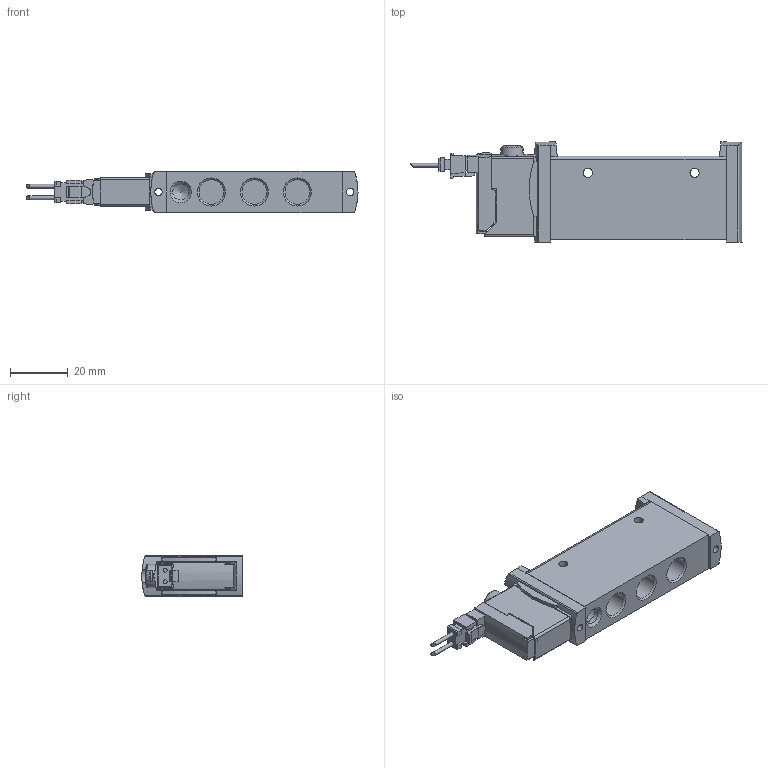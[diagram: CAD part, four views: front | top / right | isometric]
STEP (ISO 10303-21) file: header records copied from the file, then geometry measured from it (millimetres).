
FILE_DESCRIPTION( ( 'STEP AP214' ), '1' );
FILE_NAME( 'C:/Users/thinkpad/Desktop/576256_VUVG-L14-M52-AT-G18-1H2L-W1.stp', '2024-10-24T01:15:03', ( 'License CC BY-ND 4.0' ), ( 'CADENAS' ), ' ', 'PARTsolutions', ' ' );
FILE_SCHEMA( ( 'AUTOMOTIVE_DESIGN { 1 0 10303 214 1 1 1 1 }' ) );
Length unit declared in the file: millimetre
Products named in the file (4): 576256 VUVG-L14-M52-AT-G18-1H2L-W1; HI_564212 VUVG-L-14-M52-A-T-G18--1H2--L-W1---(G); _566714 VAVE-L1-1VH2-LP; _566654 NEBV-H1G2-KN-0.5-N-LE2
Assembly tree (3 placements, depth 2):
  576256 VUVG-L14-M52-AT-G18-1H2L-W1
    HI_564212 VUVG-L-14-M52-A-T-G18--1H2--L-W1---(G)
    _566714 VAVE-L1-1VH2-LP
    _566654 NEBV-H1G2-KN-0.5-N-LE2
Bounding box: 115.14 x 34.8 x 14.4 mm (x, y, z)
Volume: 33719.7 mm3; surface area: 12659.4 mm2
Topology: 3 solids, 3 shells, 530 faces, 1396 edges, 907 vertices
Faces by surface type: plane 378, cylinder 129, cone 16, torus 6, sphere 1
Full cylindrical faces by diameter (mm): 1.3 x2, 2.6 x2, 3.2 x2, 3.8 x1, 3.9 x1, 5.6 x1, 8.1 x1, 8.566 x5
Entity records: 20665 total; most frequent: CARTESIAN_POINT 3330, ORIENTED_EDGE 2708, DIRECTION 2663, EDGE_CURVE 1354, LINE 955, VECTOR 955, VERTEX_POINT 895, AXIS2_PLACEMENT_3D 854
